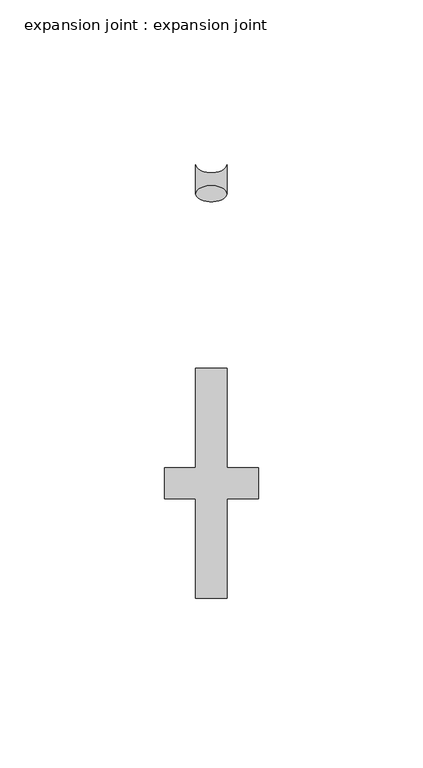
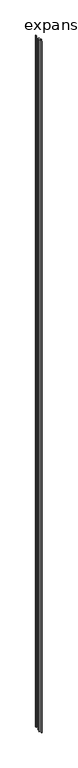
"""IFC4 building model written with IfcOpenShell, lengths in millimetres: proxy geometry, expansion joint : expansion joint."""

from ifc_helpers import new_model, si_unit, point, frame, origin, origin_with_axes, place, context, project, spatial, polyline, ellipse_curve, trimmed, outline, extrude, source, transform, mapped, element, save
from ifc_brep_helpers import plane_surface, extruded_surface, advanced_brep


def expansion_joint_expansion_joint_3a477976(model_context):
    return source(origin(), model_context, "Body", "SolidModel", [
        advanced_brep(
        [(-4.7625, 96.8375, 9347.2), (-4.7625, 88.0277957, 9347.2), (4.7625, 88.0277957, 9347.2), (4.7625, 96.8375, 9347.2), (-4.7625, 96.8375, 0.0), (4.7625, 96.8375, 0.0), (4.7625, 88.0277957, 0.0), (-4.7625, 88.0277957, 0.0)],
        [
            (0, 1),
            (1, 2, ellipse_curve(frame((0.0, 88.0277957, 9347.2), z_axis=(0.0, 0.0, -1.0), x_axis=(-1.0, 0.0, 0.0)), 4.7625, 2.4597043)),
            (2, 3),
            (3, 0, ellipse_curve(frame((0.0, 96.8375, 9347.2), z_axis=(0.0, 0.0, -1.0), x_axis=(-1.0, 0.0, 0.0)), 4.7625, 2.4597043)),
            (4, 5, ellipse_curve(frame((0.0, 96.8375, 0.0), z_axis=(0.0, 0.0, 1.0), x_axis=(-1.0, 0.0, 0.0)), 4.7625, 2.4597043)),
            (5, 6),
            (6, 7, ellipse_curve(frame((0.0, 88.0277957, 0.0), z_axis=(0.0, 0.0, 1.0), x_axis=(-1.0, 0.0, 0.0)), 4.7625, 2.4597043)),
            (7, 4),
            (0, 4),
            (7, 1),
            (2, 6),
            (5, 3),
        ],
        [
            plane_surface(frame((-4.7625, -55.5625, 9347.2), z_axis=(0.0, 0.0, 1.0), x_axis=(0.0, -1.0, 0.0))),
            plane_surface(frame((-4.7625, -55.5625, 0.0), z_axis=(0.0, 0.0, -1.0), x_axis=(0.0, 1.0, 0.0))),
            plane_surface(frame((-4.7625, 96.8375, 9347.2), z_axis=(-1.0, 0.0, 0.0), x_axis=(0.0, 0.0, -1.0))),
            plane_surface(frame((4.7625, 88.0277957, 9347.2), z_axis=(1.0, 0.0, 0.0), x_axis=(0.0, 0.0, -1.0))),
            extruded_surface(trimmed(ellipse_curve(frame((0.0, 96.8375, -9347.2), z_axis=(0.0, 0.0, -1.0), x_axis=(-1.0, 0.0, 0.0)), 4.7625, 2.4597043), [point((4.7625, 96.8375, -9347.2))], [point((-4.7625, 96.8375, -9347.2))], True, "CARTESIAN"), (0.0, 0.0, 9347.2), 9347.2),
            extruded_surface(trimmed(ellipse_curve(frame((0.0, 88.0277957, -9347.2), z_axis=(0.0, 0.0, -1.0), x_axis=(-1.0, 0.0, 0.0)), 4.7625, 2.4597043), [point((-4.7625, 88.0277957, -9347.2))], [point((4.7625, 88.0277957, -9347.2))], True, "CARTESIAN"), (0.0, 0.0, 9347.2), 9347.2),
        ],
        [
            (0, [[1, 2, 3, 4]]),
            (1, [[5, 6, 7, 8]]),
            (2, [[-1, 9, -8, 10]]),
            (3, [[-3, 11, -6, 12]]),
            (4, [[-4, -12, -5, -9]]),
            (5, [[-2, -10, -7, -11]]),
        ],
    ),
        advanced_brep(
        [(4.7625, 88.0277957, 9347.2), (-4.7625, 88.0277957, 9347.2), (4.7625, 88.0277957, 0.0), (-4.7625, 88.0277957, 0.0)],
        [
            (0, 1, ellipse_curve(frame((0.0, 88.0277957, 9347.2), z_axis=(0.0, 0.0, 1.0), x_axis=(-1.0, 0.0, 0.0)), 4.7625, 2.4597043)),
            (1, 0, ellipse_curve(frame((0.0, 88.0277957, 9347.2), z_axis=(0.0, 0.0, 1.0), x_axis=(-1.0, 0.0, 0.0)), 4.7625, 2.4597043)),
            (2, 3, ellipse_curve(frame((0.0, 88.0277957, 0.0), z_axis=(0.0, 0.0, -1.0), x_axis=(-1.0, 0.0, 0.0)), 4.7625, 2.4597043)),
            (3, 2, ellipse_curve(frame((0.0, 88.0277957, 0.0), z_axis=(0.0, 0.0, -1.0), x_axis=(-1.0, 0.0, 0.0)), 4.7625, 2.4597043)),
            (1, 3),
            (2, 0),
        ],
        [
            plane_surface(frame((-4.7625, 88.0277957, 9347.2), z_axis=(0.0, 0.0, 1.0), x_axis=(0.0, -1.0, 0.0))),
            plane_surface(frame((-4.7625, 88.0277957, 0.0), z_axis=(0.0, 0.0, -1.0), x_axis=(0.0, 1.0, 0.0))),
            extruded_surface(trimmed(ellipse_curve(frame((0.0, 88.0277957, -9347.2), z_axis=(0.0, 0.0, 1.0), x_axis=(-1.0, 0.0, 0.0)), 4.7625, 2.4597043), [point((-4.7625, 88.0277957, -9347.2))], [point((4.7625, 88.0277957, -9347.2))], True, "CARTESIAN"), (0.0, 0.0, 9347.2), 9347.2),
            extruded_surface(trimmed(ellipse_curve(frame((0.0, 88.0277957, -9347.2), z_axis=(0.0, 0.0, 1.0), x_axis=(-1.0, 0.0, 0.0)), 4.7625, 2.4597043), [point((4.7625, 88.0277957, -9347.2))], [point((-4.7625, 88.0277957, -9347.2))], True, "CARTESIAN"), (0.0, 0.0, 9347.2), 9347.2),
        ],
        [
            (0, [[1, 2]]),
            (1, [[3, 4]]),
            (2, [[-2, 5, -3, 6]]),
            (3, [[-1, -6, -4, -5]]),
        ],
    ),
        extrude(outline(polyline([(4.7625, 34.925), (4.7625, 4.7625), (14.2875, 4.7625), (14.2875, -4.7625), (4.7625, -4.7625), (4.7625, -34.925), (-4.7625, -34.925), (-4.7625, -4.7625), (-14.2875, -4.7625), (-14.2875, 4.7625), (-4.7625, 4.7625), (-4.7625, 34.925), (4.7625, 34.925)])), origin_with_axes(), (0.0, 0.0, 1.0), 9347.2),
    ])


if __name__ == "__main__":
    model = new_model("IFC4")
    model_context = context("Model", 3, world=origin())
    ifc_project = project(units=[si_unit("LENGTHUNIT", "METRE", prefix="MILLI")], contexts=[model_context])
    site = spatial("IfcSite", under=ifc_project)
    building = spatial("IfcBuilding", under=site)
    placement = place(None, origin())
    expansion_joint_expansion_joint_shape = expansion_joint_expansion_joint_3a477976(model_context)
    element("IfcBuildingElementProxy", 1, Name="expansion joint : expansion joint", ObjectType="expansion joint : expansion joint", at=placement, inside=building, context=model_context, shape_type="MappedRepresentation", body=[
        mapped(expansion_joint_expansion_joint_shape, transform((0.0, 0.0, 0.0), x_axis=(1.0, 0.0, 0.0), y_axis=(0.0, 1.0, 0.0), z_axis=(0.0, 0.0, 1.0))),
    ])
    save(model, "model.ifc")
